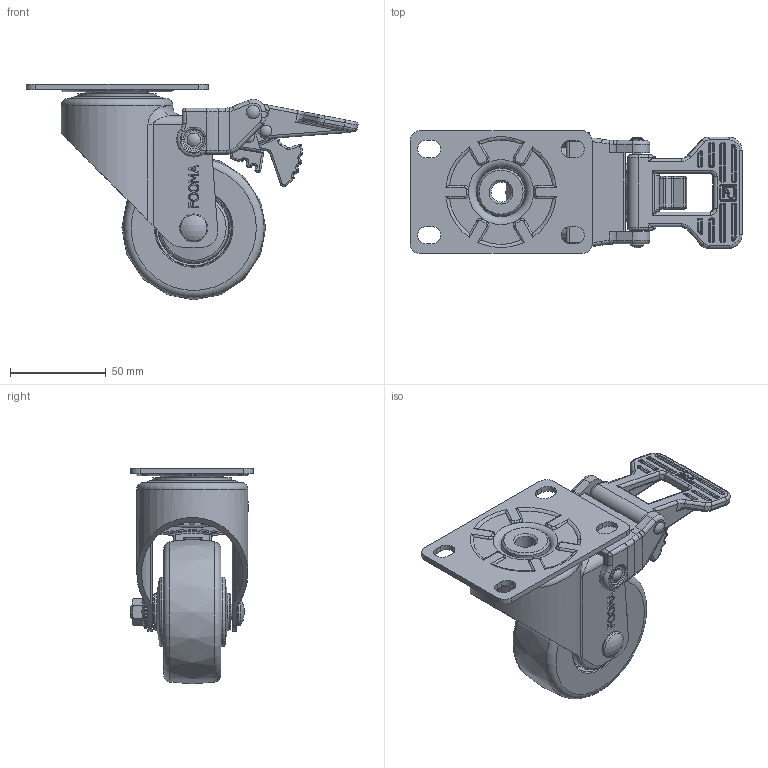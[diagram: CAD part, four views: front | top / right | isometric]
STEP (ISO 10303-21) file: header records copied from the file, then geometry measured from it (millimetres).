
FILE_DESCRIPTION(/* description */ (''),/* implementation_level */ '2;1');
FILE_NAME(/* name */ 'E:\홈페이지용3d\STEP\PL-75-BSF-LUD.stp',/* time_stamp */ '2015-03-19T11:38:49+09:00',/* author */ ('장용하'),/* organization */ (''),/* preprocessor_version */ 'ST-DEVELOPER v15.6',/* originating_system */ 'Autodesk Inventor 2015',/* authorisation */ '');
FILE_SCHEMA (('AUTOMOTIVE_DESIGN { 1 0 10303 214 3 1 1 }'));
Products named in the file (1): PL-75-BSF-LUD
Bounding box: 173.2 x 64.25 x 112.5 mm (x, y, z)
Volume: 246932.8 mm3; surface area: 100978.7 mm2
Topology: 3 solids, 3 shells, 2004 faces, 4905 edges, 2911 vertices
Faces by surface type: cylinder 768, plane 576, torus 261, bspline 240, sphere 117, cone 42
Full cylindrical faces by diameter (mm): 4 x2, 4.2 x8, 5 x2, 5.2 x7, 6 x4, 7 x4, 8 x2, 10.441 x1, 12.084 x2, 12.5 x1, 14.6 x1, 15.5 x1, 16.9 x1, 17 x2, 24.667 x2, 25 x1, 32.333 x2, 34 x1, 36 x1, 41 x1, 53 x1, 58 x1
Entity records: 73160 total; most frequent: CARTESIAN_POINT 25115, DIRECTION 9904, ORIENTED_EDGE 9386, EDGE_CURVE 4690, AXIS2_PLACEMENT_3D 3894, VERTEX_POINT 2883, EDGE_LOOP 2262, LINE 2116
